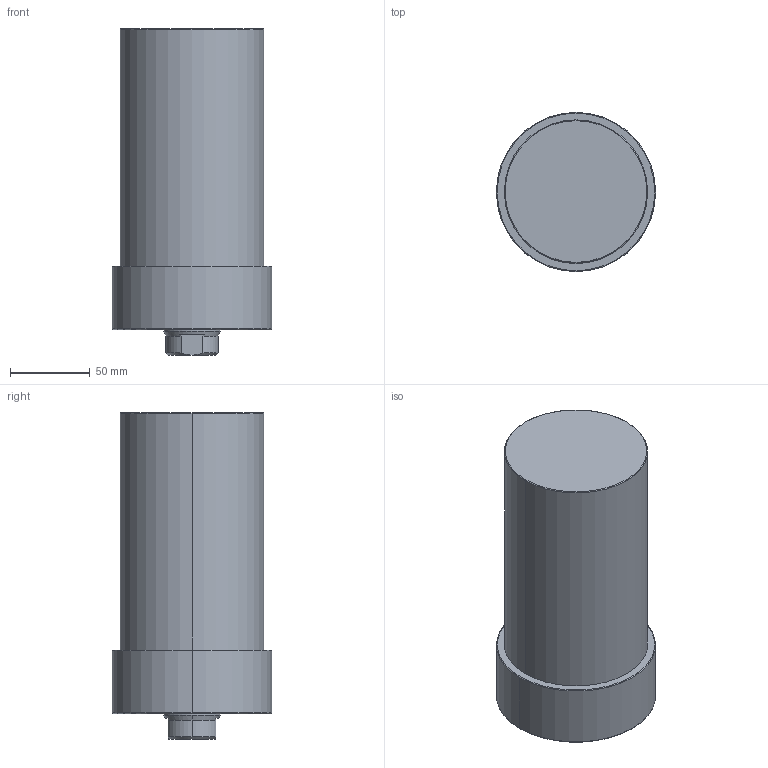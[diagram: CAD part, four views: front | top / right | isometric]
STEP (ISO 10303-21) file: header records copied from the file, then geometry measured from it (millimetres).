
FILE_DESCRIPTION (( 'STEP AP203' ), '1' );
FILE_NAME ('CLLU-090GA-105.STEP', '2020-01-13T03:40:47', ( '' ), ( '' ), 'SwSTEP 2.0', 'SolidWorks 2015', '' );
FILE_SCHEMA (( 'CONFIG_CONTROL_DESIGN' ));
Length unit declared in the file: millimetre
Products named in the file (1): CLLU-090GA-105
Bounding box: 100 x 100 x 205 mm (x, y, z)
Volume: 1255794.3 mm3; surface area: 77605.8 mm2
Topology: 1 solids, 1 shells, 64 faces, 143 edges, 80 vertices
Faces by surface type: cone 25, cylinder 23, plane 10, torus 6
Entity records: 1809 total; most frequent: DIRECTION 330, CARTESIAN_POINT 322, ORIENTED_EDGE 266, AXIS2_PLACEMENT_3D 140, EDGE_CURVE 133, VERTEX_POINT 80, CIRCLE 75, EDGE_LOOP 73
